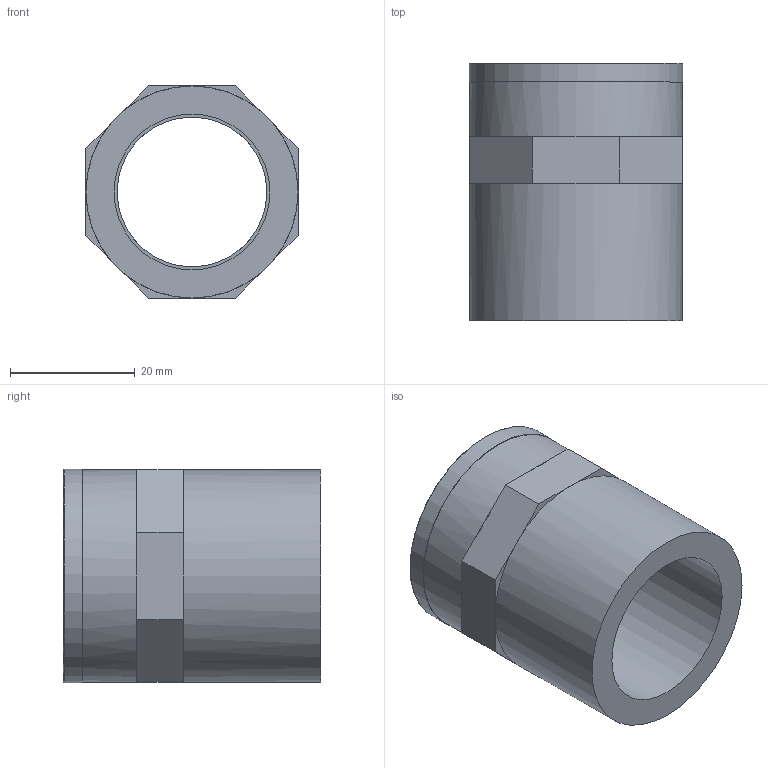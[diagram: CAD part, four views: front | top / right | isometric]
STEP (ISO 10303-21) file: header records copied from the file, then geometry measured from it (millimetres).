
FILE_DESCRIPTION(/* description */ (''),/* implementation_level */ '2;1');
FILE_NAME(/* name */ 'C:\Users\POLYPIPE\Desktop\DATASET INVENTOR\LIBRERIA EFFAST\RACCORDI 3DxWEB\RGR\3D_RGRMAR\3D_RGRMAR025C.stp',/* time_stamp */ '2018-01-19T17:52:29+01:00',/* author */ ('POLYPIPE'),/* organization */ (''),/* preprocessor_version */ 'ST-DEVELOPER v16.1',/* originating_system */ 'Autodesk Inventor 2016',/* authorisation */ '');
FILE_SCHEMA (('CONFIG_CONTROL_DESIGN'));
Length unit declared in the file: centimetre
Products named in the file (1): 3D_RGRMAR025C
Bounding box: 34.2 x 41.25 x 34.2 mm (x, y, z)
Volume: 17610.4 mm3; surface area: 9542.4 mm2
Topology: 1 solids, 1 shells, 44 faces, 92 edges, 54 vertices
Faces by surface type: plane 31, cylinder 7, bspline 5, torus 1
Full cylindrical faces by diameter (mm): 24 x1, 24.117 x1, 25 x1, 28 x1, 34 x2, 34.2 x1
Entity records: 4448 total; most frequent: CARTESIAN_POINT 3467, DIRECTION 185, ORIENTED_EDGE 170, EDGE_CURVE 85, AXIS2_PLACEMENT_3D 71, EDGE_LOOP 57, VERTEX_POINT 54, STYLED_ITEM 45
